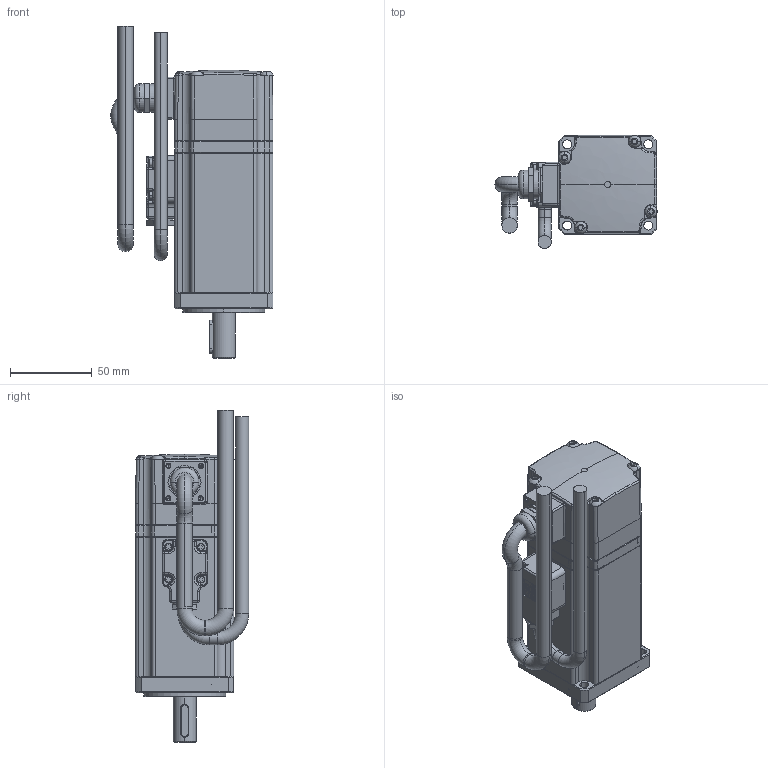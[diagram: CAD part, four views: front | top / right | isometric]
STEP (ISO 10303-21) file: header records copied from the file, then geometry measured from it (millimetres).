
FILE_DESCRIPTION((''),'2;1');
FILE_NAME('S0602B-8P-DA14X30-50-70-P3P3_ASM','2020-11-24T',('dannyr'),(''),'CREO PARAMETRIC BY PTC INC, 2014500','CREO PARAMETRIC BY PTC INC, 2014500','');
FILE_SCHEMA(('AUTOMOTIVE_DESIGN { 1 0 10303 214 1 1 1 1 }'));
Length unit declared in the file: millimetre
Products named in the file (17): TUB06P-013; FLM06P-030; FLM06P-002_NEW; CAL06P-001; 6002-2RS1; AMT06P-049; A15--_-_U7435; TBCE4X45; TCCE4X14; LNG005-001; MOR06P-001; TCCE2-5X16; PCAPG9-007; PCAPG9-004; CEM405-004-SWEEP; CEM182-001-SWEEP; S0602B-8P-DA14X30-50-70-P3P3_ASM
Assembly tree (25 placements, depth 2):
  S0602B-8P-DA14X30-50-70-P3P3_ASM
    TUB06P-013
    FLM06P-030
    FLM06P-002_NEW
    CAL06P-001
    6002-2RS1
    AMT06P-049
    A15--_-_U7435
    TBCE4X45  x4
    TCCE4X14  x4
    LNG005-001
    MOR06P-001
    TCCE2-5X16  x4
    PCAPG9-007
    PCAPG9-004
    CEM405-004-SWEEP
    CEM182-001-SWEEP
Bounding box: 98.94 x 69.09 x 202.5 mm (x, y, z)
Volume: 251689.5 mm3; surface area: 128428.7 mm2
Topology: 25 solids, 27 shells, 1277 faces, 3010 edges, 1867 vertices
Faces by surface type: cylinder 479, plane 477, cone 174, torus 87, bspline 42, sphere 18
Entity records: 38200 total; most frequent: CARTESIAN_POINT 8303, DIRECTION 5729, ORIENTED_EDGE 5216, EDGE_CURVE 2608, AXIS2_PLACEMENT_3D 2228, VERTEX_POINT 1627, VECTOR 1273, LINE 1273
